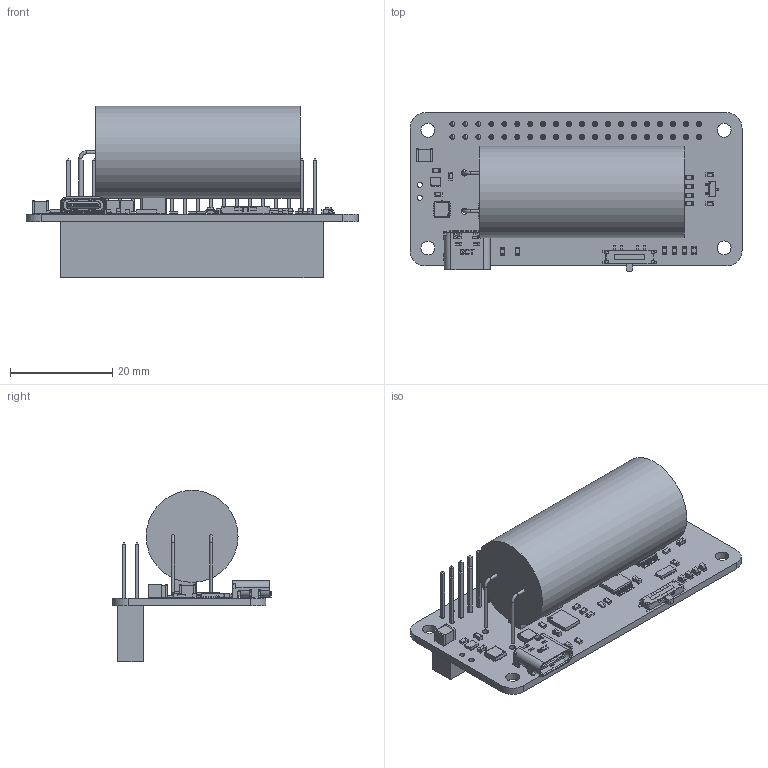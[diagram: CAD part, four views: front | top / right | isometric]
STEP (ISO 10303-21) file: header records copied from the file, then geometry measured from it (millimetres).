
FILE_DESCRIPTION(('FreeCAD Model'),'2;1');
FILE_NAME('Open CASCADE Shape Model','2026-04-29T20:01:12',(''),(''), 'Open CASCADE STEP processor 7.8','FreeCAD','Unknown');
FILE_SCHEMA(('AUTOMOTIVE_DESIGN { 1 0 10303 214 1 1 1 1 }'));
Length unit declared in the file: millimetre
Products named in the file (133): Unnamed; Components; Mosfet2; M2pin1; M2pin2; M2pin3; M2pin4; M2pin5; M2pin6; M2pin7; Passive29; Raspberry-40pin-connector; Body003; LeadsArray040; LeadsArray; LeadsArray001; LeadsArray002; LeadsArray003; LeadsArray004; LeadsArray005; LeadsArray006; LeadsArray007; LeadsArray008; LeadsArray009; LeadsArray010; LeadsArray011; LeadsArray012; LeadsArray013; LeadsArray014; LeadsArray015; LeadsArray016; LeadsArray017; LeadsArray018; LeadsArray019; LeadsArray020; LeadsArray021; LeadsArray022; LeadsArray023; LeadsArray024; LeadsArray025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
Assembly tree (169 placements, depth 5):
  Unnamed
    Components
      Mosfet2
        M2pin1
        M2pin2
        M2pin3
        M2pin4
        M2pin5
        M2pin6
        M2pin7
      Passive29  x16
      Raspberry-40pin-connector
        Body003
        LeadsArray040
          LeadsArray
          LeadsArray001
          LeadsArray002
          LeadsArray003
          LeadsArray004
          LeadsArray005
          LeadsArray006
          LeadsArray007
          LeadsArray008
          LeadsArray009
          LeadsArray010
          LeadsArray011
          LeadsArray012
          LeadsArray013
          LeadsArray014
          LeadsArray015
          LeadsArray016
          LeadsArray017
          LeadsArray018
          LeadsArray019
          LeadsArray020
          LeadsArray021
          LeadsArray022
          LeadsArray023
          LeadsArray024
          LeadsArray025
          LeadsArray026
          LeadsArray027
          LeadsArray028
          LeadsArray029
          LeadsArray030
          LeadsArray031
          LeadsArray032
          LeadsArray033
          LeadsArray034
          LeadsArray035
          LeadsArray036
          LeadsArray037
          LeadsArray038
          LeadsArray039
      IC4  x2
      Passive26  x8
      Switch
        SW1
        SW2
      USB-C-connector
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Bounding box: 65 x 31.05 x 33.53 mm (x, y, z)
Volume: 16352.5 mm3; surface area: 12872.8 mm2
Topology: 154 solids, 154 shells, 4185 faces, 10624 edges, 6803 vertices
Faces by surface type: plane 3266, cylinder 792, bspline 73, cone 48, sphere 4, torus 2
Full cylindrical faces by diameter (mm): 0.202 x1, 0.4 x6, 0.5 x1, 0.6 x6, 0.9 x2, 1 x42, 1.2 x2, 2.7 x4, 18 x1
Entity records: 91254 total; most frequent: CARTESIAN_POINT 17610, ORIENTED_EDGE 14584, DIRECTION 13701, EDGE_CURVE 7292, LINE 6061, VECTOR 6061, VERTEX_POINT 4655, AXIS2_PLACEMENT_3D 3820
